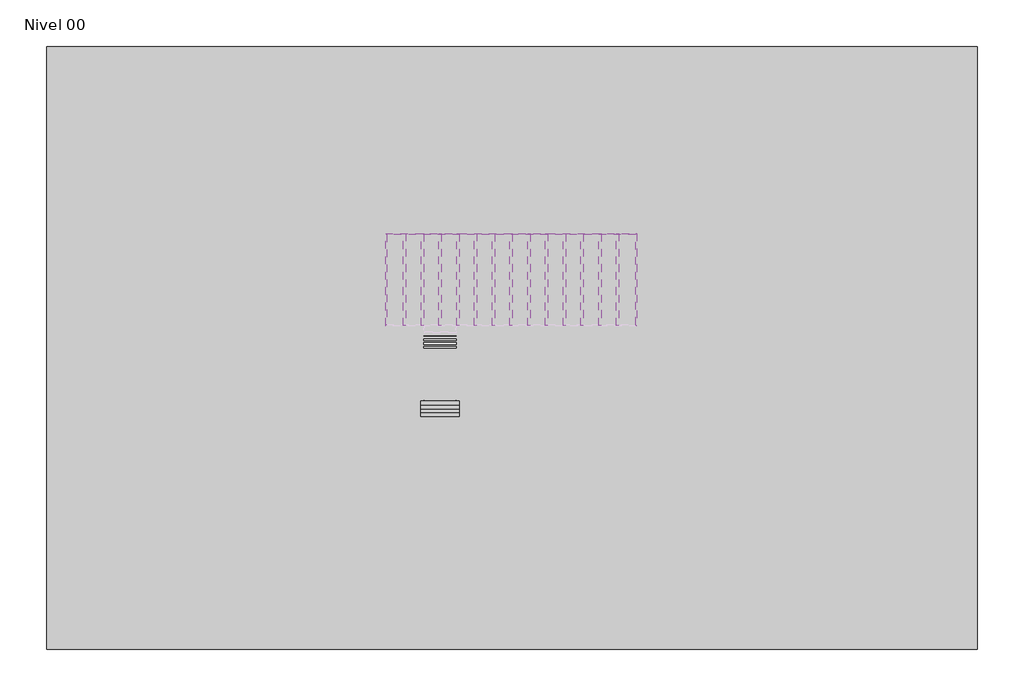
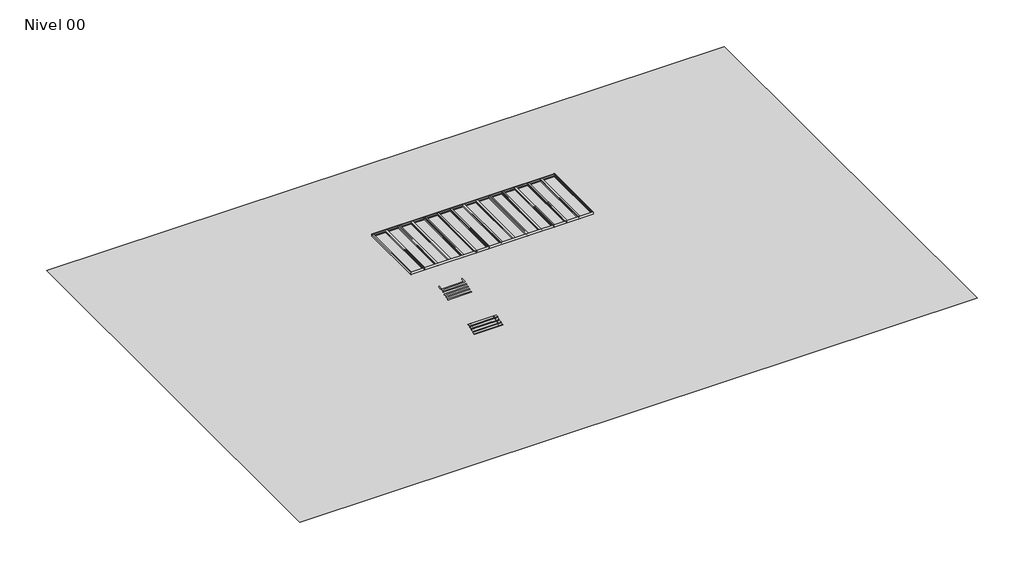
# One storey, part 2 of 2: 16 beams, 2 proxies, 1 stair flight.
"""IFC4 building model written with IfcOpenShell, lengths in millimetres."""

from ifc_helpers import new_model, si_unit, frame, origin, place, context, project, spatial, polyline, ellipse_curve, triangles, transform, mapped, element, save
from ifc_brep_helpers import plane_surface, cylinder_surface, revolved_surface, advanced_brep
from components import viga_heb_he240b_13f2b1aa, viga_heb_he240b_6fe5635d, stair_flight_ad738636

model = new_model("IFC4")

# Units and contexts
model_context = context("Model", 3, world=origin())
ifc_project = project(units=[si_unit("LENGTHUNIT", "METRE", prefix="MILLI")], contexts=[model_context])

# Site, building, storey
site = spatial("IfcSite", under=ifc_project)
building = spatial("IfcBuilding", under=site)
storey = spatial("IfcBuildingStorey", under=building, Name="Nivel 00", Elevation=0.0)

# Beams
placement = place(None, origin())
viga_heb_he240b_shape = viga_heb_he240b_13f2b1aa(model_context)
element("IfcBeam", 1, ObjectType="Viga HEB : HE240B", at=placement, inside=storey, context=model_context, shape_type="MappedRepresentation", body=[
    mapped(viga_heb_he240b_shape, transform((12614.134717, 877.1901934, 4385.0), x_axis=(0.0, -1.0, 0.0), y_axis=(1.0, 0.0, 0.0), z_axis=(0.0, 0.0, 1.0))),
])
element("IfcBeam", 2, ObjectType="Viga HEB : HE240B", at=placement, inside=storey, context=model_context, shape_type="MappedRepresentation", body=[
    mapped(viga_heb_he240b_shape, transform((5903.7525331, 877.1901934, 4385.0), x_axis=(0.0, -1.0, 0.0), y_axis=(1.0, 0.0, 0.0), z_axis=(0.0, 0.0, 1.0))),
])
element("IfcBeam", 3, ObjectType="Viga HEB : HE240B", at=placement, inside=storey, context=model_context, shape_type="MappedRepresentation", body=[
    mapped(viga_heb_he240b_shape, transform((-806.6296508, 877.1901934, 4385.0), x_axis=(0.0, -1.0, 0.0), y_axis=(1.0, 0.0, 0.0), z_axis=(0.0, 0.0, 1.0))),
])
element("IfcBeam", 4, ObjectType="Viga HEB : HE240B", at=placement, inside=storey, context=model_context, shape_type="MappedRepresentation", body=[
    mapped(viga_heb_he240b_shape, transform((-7517.0118347, 877.1901934, 4385.0), x_axis=(0.0, -1.0, 0.0), y_axis=(1.0, 0.0, 0.0), z_axis=(0.0, 0.0, 1.0))),
])
viga_heb_he240b_2_shape = viga_heb_he240b_6fe5635d(model_context)
element("IfcBeam", 5, ObjectType="Viga HEB : HE240B", at=placement, inside=storey, context=model_context, shape_type="MappedRepresentation", body=[
    mapped(viga_heb_he240b_2_shape, transform((10936.539171, 877.1901934, 4385.0), x_axis=(0.0, -1.0, 0.0), y_axis=(1.0, 0.0, 0.0), z_axis=(0.0, 0.0, 1.0))),
])
element("IfcBeam", 6, ObjectType="Viga HEB : HE240B", at=placement, inside=storey, context=model_context, shape_type="MappedRepresentation", body=[
    mapped(viga_heb_he240b_2_shape, transform((9258.943625, 877.1901934, 4385.0), x_axis=(0.0, -1.0, 0.0), y_axis=(1.0, 0.0, 0.0), z_axis=(0.0, 0.0, 1.0))),
])
element("IfcBeam", 7, ObjectType="Viga HEB : HE240B", at=placement, inside=storey, context=model_context, shape_type="MappedRepresentation", body=[
    mapped(viga_heb_he240b_2_shape, transform((7581.3480791, 877.1901934, 4385.0), x_axis=(0.0, -1.0, 0.0), y_axis=(1.0, 0.0, 0.0), z_axis=(0.0, 0.0, 1.0))),
])
element("IfcBeam", 8, ObjectType="Viga HEB : HE240B", at=placement, inside=storey, context=model_context, shape_type="MappedRepresentation", body=[
    mapped(viga_heb_he240b_2_shape, transform((4226.1569871, 877.1901934, 4385.0), x_axis=(0.0, -1.0, 0.0), y_axis=(1.0, 0.0, 0.0), z_axis=(0.0, 0.0, 1.0))),
])
element("IfcBeam", 9, ObjectType="Viga HEB : HE240B", at=placement, inside=storey, context=model_context, shape_type="MappedRepresentation", body=[
    mapped(viga_heb_he240b_2_shape, transform((2548.5614411, 877.1901934, 4385.0), x_axis=(0.0, -1.0, 0.0), y_axis=(1.0, 0.0, 0.0), z_axis=(0.0, 0.0, 1.0))),
])
element("IfcBeam", 10, ObjectType="Viga HEB : HE240B", at=placement, inside=storey, context=model_context, shape_type="MappedRepresentation", body=[
    mapped(viga_heb_he240b_2_shape, transform((870.9658952, 877.1901934, 4385.0), x_axis=(0.0, -1.0, 0.0), y_axis=(1.0, 0.0, 0.0), z_axis=(0.0, 0.0, 1.0))),
])
element("IfcBeam", 11, ObjectType="Viga HEB : HE240B", at=placement, inside=storey, context=model_context, shape_type="MappedRepresentation", body=[
    mapped(viga_heb_he240b_2_shape, transform((-2484.2251968, 877.1901934, 4385.0), x_axis=(0.0, -1.0, 0.0), y_axis=(1.0, 0.0, 0.0), z_axis=(0.0, 0.0, 1.0))),
])
element("IfcBeam", 12, ObjectType="Viga HEB : HE240B", at=placement, inside=storey, context=model_context, shape_type="MappedRepresentation", body=[
    mapped(viga_heb_he240b_2_shape, transform((-4161.8207428, 877.1901934, 4385.0), x_axis=(0.0, -1.0, 0.0), y_axis=(1.0, 0.0, 0.0), z_axis=(0.0, 0.0, 1.0))),
])
element("IfcBeam", 13, ObjectType="Viga HEB : HE240B", at=placement, inside=storey, context=model_context, shape_type="MappedRepresentation", body=[
    mapped(viga_heb_he240b_2_shape, transform((-5839.4162888, 877.1901934, 4385.0), x_axis=(0.0, -1.0, 0.0), y_axis=(1.0, 0.0, 0.0), z_axis=(0.0, 0.0, 1.0))),
])
element("IfcBeam", 14, ObjectType="Viga UPN : UPN 300", at=placement, inside=storey, context=model_context, shape_type="AdvancedBrep", body=[
    advanced_brep(
    [(14412.672648, -3493.1309012, 4250.0), (14412.672648, 5247.4380644, 4250.0), (14412.672648, 5247.4380644, 4550.0), (14412.672648, -3493.1309012, 4550.0), (14312.672648, -3393.1309012, 4250.0), (14312.672648, 5147.4380644, 4250.0), (14312.672648, -3393.1309012, 4254.6144408), (14312.672648, 5147.4380644, 4254.6144408), (14320.0346863, -3400.4929394, 4262.5889631), (14320.0346863, 5154.8001026, 4262.5889631), (14387.9485716, -3468.4068247, 4268.0220739), (14387.9485716, 5222.7139879, 4268.0220739), (14402.672648, -3483.1309012, 4283.9711183), (14402.672648, 5237.4380644, 4283.9711183), (14402.672648, -3483.1309012, 4516.0288817), (14402.672648, 5237.4380644, 4516.0288817), (14387.9485716, -3468.4068247, 4531.9779261), (14387.9485716, 5222.7139879, 4531.9779261), (14320.0346863, -3400.4929394, 4537.4110369), (14320.0346863, 5154.8001026, 4537.4110369), (14312.672648, -3393.1309012, 4545.3855592), (14312.672648, 5147.4380644, 4545.3855592), (14312.672648, -3393.1309012, 4550.0), (14312.672648, 5147.4380644, 4550.0)],
    [
        (0, 1),
        (1, 2),
        (2, 3),
        (3, 0),
        (4, 5),
        (5, 1),
        (0, 4),
        (6, 7),
        (7, 5),
        (4, 6),
        (8, 9),
        (9, 7, ellipse_curve(frame((14320.672648, 5155.4380644, 4254.6144408), z_axis=(0.7071067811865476, -0.7071067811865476, 0.0), x_axis=(0.7071067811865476, 0.7071067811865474, 0.0)), 11.3137085, 8.0)),
        (6, 8, ellipse_curve(frame((14320.672648, -3401.1309012, 4254.6144408), z_axis=(0.7071067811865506, 0.7071067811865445, 0.0), x_axis=(-0.7071067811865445, 0.7071067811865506, 0.0)), 11.3137085, 8.0)),
        (8, 10),
        (10, 11),
        (11, 9),
        (12, 13),
        (13, 11, ellipse_curve(frame((14386.672648, 5221.4380644, 4283.9711183), z_axis=(-0.7071067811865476, 0.7071067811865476, 0.0), x_axis=(0.7071067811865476, 0.7071067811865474, 0.0)), 22.627417, 16.0)),
        (10, 12, ellipse_curve(frame((14386.672648, -3467.1309012, 4283.9711183), z_axis=(-0.7071067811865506, -0.7071067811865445, 0.0), x_axis=(-0.7071067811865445, 0.7071067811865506, 0.0)), 22.627417, 16.0)),
        (14, 15),
        (15, 13),
        (12, 14),
        (16, 17),
        (17, 15, ellipse_curve(frame((14386.672648, 5221.4380644, 4516.0288817), z_axis=(-0.7071067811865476, 0.7071067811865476, 0.0), x_axis=(0.7071067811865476, 0.7071067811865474, 0.0)), 22.627417, 16.0)),
        (14, 16, ellipse_curve(frame((14386.672648, -3467.1309012, 4516.0288817), z_axis=(-0.7071067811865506, -0.7071067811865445, 0.0), x_axis=(-0.7071067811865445, 0.7071067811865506, 0.0)), 22.627417, 16.0)),
        (16, 18),
        (18, 19),
        (19, 17),
        (20, 21),
        (21, 19, ellipse_curve(frame((14320.672648, 5155.4380644, 4545.3855592), z_axis=(0.7071067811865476, -0.7071067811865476, 0.0), x_axis=(0.7071067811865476, 0.7071067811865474, 0.0)), 11.3137085, 8.0)),
        (18, 20, ellipse_curve(frame((14320.672648, -3401.1309012, 4545.3855592), z_axis=(0.7071067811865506, 0.7071067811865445, 0.0), x_axis=(-0.7071067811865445, 0.7071067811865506, 0.0)), 11.3137085, 8.0)),
        (22, 23),
        (23, 21),
        (20, 22),
        (2, 23),
        (22, 3),
    ],
    [
        plane_surface(frame((14412.672648, -3405.5464184, 4400.0), z_axis=(1.0, 0.0, 0.0), x_axis=(0.0, 0.0, -1.0))),
        plane_surface(frame((14362.672648, -3405.5464184, 4250.0), z_axis=(0.0, 0.0, -1.0), x_axis=(-1.0, 0.0, 0.0))),
        plane_surface(frame((14312.672648, -3405.5464184, 4252.3072204), z_axis=(-1.0, 0.0, 0.0), x_axis=(0.0, 0.0, 1.0))),
        cylinder_surface(frame((14320.672648, -3405.5464184, 4254.6144408), z_axis=(0.0, 1.0, 0.0), x_axis=(0.0, 0.0, 1.0)), 8.0),
        plane_surface(frame((14353.9916289, -3405.5464184, 4265.3055185), z_axis=(-0.07974522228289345, 0.0, 0.9968152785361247), x_axis=(0.9968152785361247, 0.0, 0.07974522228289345))),
        revolved_surface(polyline([(14402.621692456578, 5237.438064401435, 4285.247041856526), (14402.621692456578, -3483.130901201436, 4285.247041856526)]), (14386.672648, -3405.5464184, 4283.9711183), (0.0, 1.0, 0.0)),
        plane_surface(frame((14402.672648, -3405.5464184, 4400.0), z_axis=(-1.0, 0.0, 0.0), x_axis=(0.0, 0.0, 1.0))),
        revolved_surface(polyline([(14386.672648, 5237.438064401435, 4532.0288817), (14386.672648, -3483.130901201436, 4532.0288817)]), (14386.672648, -3405.5464184, 4516.0288817), (0.0, 1.0, 0.0)),
        plane_surface(frame((14353.9916289, -3405.5464184, 4534.6944815), z_axis=(-0.07974522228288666, 0.0, -0.9968152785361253), x_axis=(-0.9968152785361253, 0.0, 0.07974522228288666))),
        cylinder_surface(frame((14320.672648, -3405.5464184, 4545.3855592), z_axis=(0.0, 1.0, 0.0), x_axis=(-0.9968152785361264, 0.0, 0.079745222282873)), 8.0),
        plane_surface(frame((14312.672648, -3405.5464184, 4547.6927796), z_axis=(-1.0, 0.0, 0.0), x_axis=(0.0, 0.0, 1.0))),
        plane_surface(frame((14362.672648, -3405.5464184, 4550.0), z_axis=(0.0, 0.0, 1.0), x_axis=(1.0, 0.0, 0.0))),
        plane_surface(frame((14312.672648, 5147.4380644, 4550.0), z_axis=(-0.7071067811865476, 0.7071067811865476, 0.0), x_axis=(0.7071067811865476, 0.7071067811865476, 0.0))),
        plane_surface(frame((14312.672648, -3393.1309012, 4550.0), z_axis=(-0.7071067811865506, -0.7071067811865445, 0.0), x_axis=(0.7071067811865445, -0.7071067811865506, 0.0))),
    ],
    [
        (0, [[1, 2, 3, 4]]),
        (1, [[5, 6, -1, 7]]),
        (2, [[8, 9, -5, 10]]),
        (3, [[11, 12, -8, 13]]),
        (4, [[14, 15, 16, -11]]),
        (5, [[17, 18, -15, 19]]),
        (6, [[20, 21, -17, 22]]),
        (7, [[23, 24, -20, 25]]),
        (8, [[26, 27, 28, -23]]),
        (9, [[29, 30, -27, 31]]),
        (10, [[32, 33, -29, 34]]),
        (11, [[-3, 35, -32, 36]]),
        (12, [[-2, -6, -9, -12, -16, -18, -21, -24, -28, -30, -33, -35]]),
        (13, [[-36, -34, -31, -26, -25, -22, -19, -14, -13, -10, -7, -4]]),
    ],
),
])
element("IfcBeam", 15, ObjectType="Viga UPN : UPN 300", at=placement, inside=storey, context=model_context, shape_type="AdvancedBrep", body=[
    advanced_brep(
    [(14412.672648, 5247.4380644, 4250.0), (-9319.7825244, 5247.4380644, 4250.0), (-9319.7825244, 5247.4380644, 4550.0), (14412.672648, 5247.4380644, 4550.0), (14312.672648, 5147.4380644, 4250.0), (-9219.7825244, 5147.4380644, 4250.0), (14312.672648, 5147.4380644, 4254.6144408), (-9219.7825244, 5147.4380644, 4254.6144408), (14320.0346863, 5154.8001026, 4262.5889631), (-9227.1445626, 5154.8001026, 4262.5889631), (14387.9485716, 5222.7139879, 4268.0220739), (-9295.0584479, 5222.7139879, 4268.0220739), (14402.672648, 5237.4380644, 4283.9711183), (-9309.7825244, 5237.4380644, 4283.9711183), (14402.672648, 5237.4380644, 4516.0288817), (-9309.7825244, 5237.4380644, 4516.0288817), (14387.9485716, 5222.7139879, 4531.9779261), (-9295.0584479, 5222.7139879, 4531.9779261), (14320.0346863, 5154.8001026, 4537.4110369), (-9227.1445626, 5154.8001026, 4537.4110369), (14312.672648, 5147.4380644, 4545.3855592), (-9219.7825244, 5147.4380644, 4545.3855592), (14312.672648, 5147.4380644, 4550.0), (-9219.7825244, 5147.4380644, 4550.0)],
    [
        (0, 1),
        (1, 2),
        (2, 3),
        (3, 0),
        (4, 5),
        (5, 1),
        (0, 4),
        (6, 7),
        (7, 5),
        (4, 6),
        (8, 9),
        (9, 7, ellipse_curve(frame((-9227.7825244, 5155.4380644, 4254.6144408), z_axis=(0.7071067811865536, 0.7071067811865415, 0.0), x_axis=(-0.7071067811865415, 0.7071067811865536, 0.0)), 11.3137085, 8.0)),
        (6, 8, ellipse_curve(frame((14320.672648, 5155.4380644, 4254.6144408), z_axis=(-0.7071067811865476, 0.7071067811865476, 0.0), x_axis=(-0.7071067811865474, -0.7071067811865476, 0.0)), 11.3137085, 8.0)),
        (8, 10),
        (10, 11),
        (11, 9),
        (12, 13),
        (13, 11, ellipse_curve(frame((-9293.7825244, 5221.4380644, 4283.9711183), z_axis=(-0.7071067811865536, -0.7071067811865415, 0.0), x_axis=(-0.7071067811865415, 0.7071067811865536, 0.0)), 22.627417, 16.0)),
        (10, 12, ellipse_curve(frame((14386.672648, 5221.4380644, 4283.9711183), z_axis=(0.7071067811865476, -0.7071067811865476, 0.0), x_axis=(-0.7071067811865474, -0.7071067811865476, 0.0)), 22.627417, 16.0)),
        (14, 15),
        (15, 13),
        (12, 14),
        (16, 17),
        (17, 15, ellipse_curve(frame((-9293.7825244, 5221.4380644, 4516.0288817), z_axis=(-0.7071067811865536, -0.7071067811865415, 0.0), x_axis=(-0.7071067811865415, 0.7071067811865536, 0.0)), 22.627417, 16.0)),
        (14, 16, ellipse_curve(frame((14386.672648, 5221.4380644, 4516.0288817), z_axis=(0.7071067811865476, -0.7071067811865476, 0.0), x_axis=(-0.7071067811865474, -0.7071067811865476, 0.0)), 22.627417, 16.0)),
        (16, 18),
        (18, 19),
        (19, 17),
        (20, 21),
        (21, 19, ellipse_curve(frame((-9227.7825244, 5155.4380644, 4545.3855592), z_axis=(0.7071067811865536, 0.7071067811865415, 0.0), x_axis=(-0.7071067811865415, 0.7071067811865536, 0.0)), 11.3137085, 8.0)),
        (18, 20, ellipse_curve(frame((14320.672648, 5155.4380644, 4545.3855592), z_axis=(-0.7071067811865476, 0.7071067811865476, 0.0), x_axis=(-0.7071067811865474, -0.7071067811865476, 0.0)), 11.3137085, 8.0)),
        (22, 23),
        (23, 21),
        (20, 22),
        (2, 23),
        (22, 3),
    ],
    [
        plane_surface(frame((14325.1450618, 5247.4380644, 4400.0), z_axis=(0.0, 1.0, 0.0), x_axis=(0.0, 0.0, -1.0))),
        plane_surface(frame((14325.1450618, 5197.4380644, 4250.0), z_axis=(0.0, 0.0, -1.0), x_axis=(0.0, -1.0, 0.0))),
        plane_surface(frame((14325.1450618, 5147.4380644, 4252.3072204), z_axis=(0.0, -1.0, 0.0), x_axis=(0.0, 0.0, 1.0))),
        cylinder_surface(frame((14325.1450618, 5155.4380644, 4254.6144408), z_axis=(-1.0, 0.0, 0.0), x_axis=(0.0, 0.0, 1.0)), 8.0),
        plane_surface(frame((14325.1450618, 5188.7570452, 4265.3055185), z_axis=(0.0, -0.07974522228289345, 0.9968152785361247), x_axis=(0.0, 0.9968152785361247, 0.07974522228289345))),
        revolved_surface(polyline([(-9309.782524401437, 5237.387108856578, 4285.247041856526), (14402.672648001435, 5237.387108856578, 4285.247041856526)]), (14325.1450618, 5221.4380644, 4283.9711183), (-1.0, 0.0, 0.0)),
        plane_surface(frame((14325.1450618, 5237.4380644, 4400.0), z_axis=(0.0, -1.0, 0.0), x_axis=(0.0, 0.0, 1.0))),
        revolved_surface(polyline([(-9309.782524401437, 5221.4380644, 4532.0288817), (14402.672648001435, 5221.4380644, 4532.0288817)]), (14325.1450618, 5221.4380644, 4516.0288817), (-1.0, 0.0, 0.0)),
        plane_surface(frame((14325.1450618, 5188.7570452, 4534.6944815), z_axis=(0.0, -0.07974522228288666, -0.9968152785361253), x_axis=(0.0, -0.9968152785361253, 0.07974522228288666))),
        cylinder_surface(frame((14325.1450618, 5155.4380644, 4545.3855592), z_axis=(-1.0, 0.0, 0.0), x_axis=(0.0, -0.9968152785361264, 0.079745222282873)), 8.0),
        plane_surface(frame((14325.1450618, 5147.4380644, 4547.6927796), z_axis=(0.0, -1.0, 0.0), x_axis=(0.0, 0.0, 1.0))),
        plane_surface(frame((14325.1450618, 5197.4380644, 4550.0), z_axis=(0.0, 0.0, 1.0), x_axis=(0.0, 1.0, 0.0))),
        plane_surface(frame((14312.672648, 5147.4380644, 4550.0), z_axis=(0.7071067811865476, -0.7071067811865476, 0.0), x_axis=(0.7071067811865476, 0.7071067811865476, 0.0))),
        plane_surface(frame((-9219.7825244, 5147.4380644, 4550.0), z_axis=(-0.7071067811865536, -0.7071067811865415, 0.0), x_axis=(0.7071067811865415, -0.7071067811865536, 0.0))),
    ],
    [
        (0, [[1, 2, 3, 4]]),
        (1, [[5, 6, -1, 7]]),
        (2, [[8, 9, -5, 10]]),
        (3, [[11, 12, -8, 13]]),
        (4, [[14, 15, 16, -11]]),
        (5, [[17, 18, -15, 19]]),
        (6, [[20, 21, -17, 22]]),
        (7, [[23, 24, -20, 25]]),
        (8, [[26, 27, 28, -23]]),
        (9, [[29, 30, -27, 31]]),
        (10, [[32, 33, -29, 34]]),
        (11, [[-3, 35, -32, 36]]),
        (12, [[-36, -34, -31, -26, -25, -22, -19, -14, -13, -10, -7, -4]]),
        (13, [[-2, -6, -9, -12, -16, -18, -21, -24, -28, -30, -33, -35]]),
    ],
),
])
element("IfcBeam", 16, ObjectType="Viga UPN : UPN 300", at=placement, inside=storey, context=model_context, shape_type="AdvancedBrep", body=[
    advanced_brep(
    [(-9319.7825244, 5247.4380644, 4250.0), (-9319.7825244, -3493.1309012, 4250.0), (-9319.7825244, -3493.1309012, 4550.0), (-9319.7825244, 5247.4380644, 4550.0), (-9219.7825244, 5147.4380644, 4250.0), (-9219.7825244, -3393.1309012, 4250.0), (-9219.7825244, 5147.4380644, 4254.6144408), (-9219.7825244, -3393.1309012, 4254.6144408), (-9227.1445626, 5154.8001026, 4262.5889631), (-9227.1445626, -3400.4929394, 4262.5889631), (-9295.0584479, 5222.7139879, 4268.0220739), (-9295.0584479, -3468.4068247, 4268.0220739), (-9309.7825244, 5237.4380644, 4283.9711183), (-9309.7825244, -3483.1309012, 4283.9711183), (-9309.7825244, 5237.4380644, 4516.0288817), (-9309.7825244, -3483.1309012, 4516.0288817), (-9295.0584479, 5222.7139879, 4531.9779261), (-9295.0584479, -3468.4068247, 4531.9779261), (-9227.1445626, 5154.8001026, 4537.4110369), (-9227.1445626, -3400.4929394, 4537.4110369), (-9219.7825244, 5147.4380644, 4545.3855592), (-9219.7825244, -3393.1309012, 4545.3855592), (-9219.7825244, 5147.4380644, 4550.0), (-9219.7825244, -3393.1309012, 4550.0)],
    [
        (0, 1),
        (1, 2),
        (2, 3),
        (3, 0),
        (4, 5),
        (5, 1),
        (0, 4),
        (6, 7),
        (7, 5),
        (4, 6),
        (8, 9),
        (9, 7, ellipse_curve(frame((-9227.7825244, -3401.1309012, 4254.6144408), z_axis=(-0.7071067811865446, 0.7071067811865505, 0.0), x_axis=(-0.7071067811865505, -0.7071067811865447, 0.0)), 11.3137085, 8.0)),
        (6, 8, ellipse_curve(frame((-9227.7825244, 5155.4380644, 4254.6144408), z_axis=(-0.7071067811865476, -0.7071067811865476, 0.0), x_axis=(0.7071067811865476, -0.7071067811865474, 0.0)), 11.3137085, 8.0)),
        (8, 10),
        (10, 11),
        (11, 9),
        (12, 13),
        (13, 11, ellipse_curve(frame((-9293.7825244, -3467.1309012, 4283.9711183), z_axis=(0.7071067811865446, -0.7071067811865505, 0.0), x_axis=(-0.7071067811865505, -0.7071067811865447, 0.0)), 22.627417, 16.0)),
        (10, 12, ellipse_curve(frame((-9293.7825244, 5221.4380644, 4283.9711183), z_axis=(0.7071067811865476, 0.7071067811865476, 0.0), x_axis=(0.7071067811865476, -0.7071067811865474, 0.0)), 22.627417, 16.0)),
        (14, 15),
        (15, 13),
        (12, 14),
        (16, 17),
        (17, 15, ellipse_curve(frame((-9293.7825244, -3467.1309012, 4516.0288817), z_axis=(0.7071067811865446, -0.7071067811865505, 0.0), x_axis=(-0.7071067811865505, -0.7071067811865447, 0.0)), 22.627417, 16.0)),
        (14, 16, ellipse_curve(frame((-9293.7825244, 5221.4380644, 4516.0288817), z_axis=(0.7071067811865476, 0.7071067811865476, 0.0), x_axis=(0.7071067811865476, -0.7071067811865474, 0.0)), 22.627417, 16.0)),
        (16, 18),
        (18, 19),
        (19, 17),
        (20, 21),
        (21, 19, ellipse_curve(frame((-9227.7825244, -3401.1309012, 4545.3855592), z_axis=(-0.7071067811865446, 0.7071067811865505, 0.0), x_axis=(-0.7071067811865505, -0.7071067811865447, 0.0)), 11.3137085, 8.0)),
        (18, 20, ellipse_curve(frame((-9227.7825244, 5155.4380644, 4545.3855592), z_axis=(-0.7071067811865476, -0.7071067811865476, 0.0), x_axis=(0.7071067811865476, -0.7071067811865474, 0.0)), 11.3137085, 8.0)),
        (22, 23),
        (23, 21),
        (20, 22),
        (2, 23),
        (22, 3),
    ],
    [
        plane_surface(frame((-9319.7825244, 5159.8535816, 4400.0), z_axis=(-1.0, 0.0, 0.0), x_axis=(0.0, 0.0, -1.0))),
        plane_surface(frame((-9269.7825244, 5159.8535816, 4250.0), z_axis=(0.0, 0.0, -1.0), x_axis=(1.0, 0.0, 0.0))),
        plane_surface(frame((-9219.7825244, 5159.8535816, 4252.3072204), z_axis=(1.0, 0.0, 0.0), x_axis=(0.0, 0.0, 1.0))),
        cylinder_surface(frame((-9227.7825244, 5159.8535816, 4254.6144408), z_axis=(0.0, -1.0, 0.0), x_axis=(0.0, 0.0, 1.0)), 8.0),
        plane_surface(frame((-9261.1015053, 5159.8535816, 4265.3055185), z_axis=(0.07974522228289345, 0.0, 0.9968152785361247), x_axis=(-0.9968152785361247, 0.0, 0.07974522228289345))),
        revolved_surface(polyline([(-9309.731568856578, -3483.1309012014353, 4285.247041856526), (-9309.731568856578, 5237.438064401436, 4285.247041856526)]), (-9293.7825244, 5159.8535816, 4283.9711183), (0.0, -1.0, 0.0)),
        plane_surface(frame((-9309.7825244, 5159.8535816, 4400.0), z_axis=(1.0, 0.0, 0.0), x_axis=(0.0, 0.0, 1.0))),
        revolved_surface(polyline([(-9293.7825244, -3483.1309012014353, 4532.0288817), (-9293.7825244, 5237.438064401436, 4532.0288817)]), (-9293.7825244, 5159.8535816, 4516.0288817), (0.0, -1.0, 0.0)),
        plane_surface(frame((-9261.1015053, 5159.8535816, 4534.6944815), z_axis=(0.07974522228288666, 0.0, -0.9968152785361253), x_axis=(0.9968152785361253, 0.0, 0.07974522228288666))),
        cylinder_surface(frame((-9227.7825244, 5159.8535816, 4545.3855592), z_axis=(0.0, -1.0, 0.0), x_axis=(0.9968152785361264, 0.0, 0.079745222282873)), 8.0),
        plane_surface(frame((-9219.7825244, 5159.8535816, 4547.6927796), z_axis=(1.0, 0.0, 0.0), x_axis=(0.0, 0.0, 1.0))),
        plane_surface(frame((-9269.7825244, 5159.8535816, 4550.0), z_axis=(0.0, 0.0, 1.0), x_axis=(-1.0, 0.0, 0.0))),
        plane_surface(frame((-9219.7825244, 5147.4380644, 4550.0), z_axis=(0.7071067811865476, 0.7071067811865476, 0.0), x_axis=(0.7071067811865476, -0.7071067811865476, 0.0))),
        plane_surface(frame((-9219.7825244, -3393.1309012, 4550.0), z_axis=(0.7071067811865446, -0.7071067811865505, 0.0), x_axis=(0.7071067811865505, 0.7071067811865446, 0.0))),
    ],
    [
        (0, [[1, 2, 3, 4]]),
        (1, [[5, 6, -1, 7]]),
        (2, [[8, 9, -5, 10]]),
        (3, [[11, 12, -8, 13]]),
        (4, [[14, 15, 16, -11]]),
        (5, [[17, 18, -15, 19]]),
        (6, [[20, 21, -17, 22]]),
        (7, [[23, 24, -20, 25]]),
        (8, [[26, 27, 28, -23]]),
        (9, [[29, 30, -27, 31]]),
        (10, [[32, 33, -29, 34]]),
        (11, [[-3, 35, -32, 36]]),
        (12, [[-36, -34, -31, -26, -25, -22, -19, -14, -13, -10, -7, -4]]),
        (13, [[-2, -6, -9, -12, -16, -18, -21, -24, -28, -30, -33, -35]]),
    ],
),
])

# Proxies
element("IfcBuildingElementProxy", 17, Name="Building Element Proxy", at=placement, inside=storey, context=model_context, shape_type="Tessellation", body=[
    triangles([(-41366.1355225, 22926.1215454, 0.0), (46633.8651489, 22926.1215454, 0.0), (46633.8651489, -34073.8783081, 0.0), (-41366.1355225, -34073.8783081, 0.0)], [[1, 4, 3], [3, 2, 1]], closed=False),
])
element("IfcBuildingElementProxy", 18, Name="Building Element Proxy", at=placement, inside=storey, context=model_context, shape_type="Tessellation", body=[
    triangles([(-41366.1355225, 22926.1215454, 0.0), (-41366.1355225, -34073.8783081, 0.0), (46633.8651489, -34073.8783081, 0.0), (46633.8651489, 22926.1215454, 0.0), (-13627.0124084, -10099.8381683, 0.0), (-13627.0124084, -11299.8381775, 0.0), (-14827.0112549, -11299.8381775, 0.0), (-14827.0112549, -10099.8381683, 0.0), (-6917.0120956, -10099.8381683, 0.0), (-6917.0120956, -11299.8381775, 0.0), (-8117.0121048, -11299.8381775, 0.0), (-8117.0121048, -10099.8381683, 0.0), (-209.4601072, -10099.8381683, 0.0), (-209.4601072, -11299.8381775, 0.0), (-1409.4600437, -11299.8381775, 0.0), (-1409.4600437, -10099.8381683, 0.0), (-13627.0124084, -2993.1309654, 0.0), (-13627.0124084, -4193.1309746, 0.0), (-14827.0112549, -4193.1309746, 0.0), (-14827.0112549, -2993.1309654, 0.0), (-6917.0120956, -2993.1309654, 0.0), (-6917.0120956, -4193.1309746, 0.0), (-8117.0121048, -4193.1309746, 0.0), (-8117.0121048, -2993.1309654, 0.0), (-209.4601072, -2993.1309654, 0.0), (-209.4601072, -3732.1791687, 0.0), (-209.4601072, -4193.1309746, 0.0), (-1409.4600437, -4193.1309746, 0.0), (-1409.4600437, -2993.1309654, 0.0), (-1350.4469307, -2993.1309654, 0.0), (6502.3414764, -2993.1309654, 0.0), (6502.3414764, -4193.1309746, 0.0), (5302.3414673, -4193.1309746, 0.0), (5302.3414673, -2993.1309654, 0.0), (13214.1352844, -2993.1309654, 0.0), (13214.1352844, -4193.1309746, 0.0), (12014.1352753, -4193.1309746, 0.0), (12014.1352753, -2993.1309654, 0.0), (-6917.0120956, 5947.4381378, 0.0), (-6917.0120956, 4747.4381287, 0.0), (-8117.0121048, 4747.4381287, 0.0), (-8117.0121048, 5947.4381378, 0.0), (-209.4601072, 5947.4381378, 0.0), (-209.4601072, 4747.4381287, 0.0), (-1409.4600437, 4747.4381287, 0.0), (-1409.4600437, 5947.4381378, 0.0), (6502.3414764, 5947.4381378, 0.0), (6502.3414764, 4747.4381287, 0.0), (5302.3414673, 4747.4381287, 0.0), (5302.3414673, 5947.4381378, 0.0), (13214.1352844, 5947.4381378, 0.0), (13214.1352844, 4747.4381287, 0.0), (12014.1352753, 4747.4381287, 0.0), (12014.1352753, 5947.4381378, 0.0)], [[2, 6, 7], [6, 2, 11], [2, 7, 8], [5, 6, 11], [5, 11, 12], [19, 8, 5], [2, 10, 11], [2, 8, 19], [15, 10, 2], [9, 10, 15], [23, 9, 22], [9, 23, 12], [29, 22, 28], [16, 22, 9], [9, 15, 16], [5, 12, 18], [2, 14, 15], [23, 18, 12], [18, 19, 5], [41, 17, 24], [1, 20, 42], [20, 1, 19], [41, 42, 20], [20, 17, 41], [1, 42, 39], [17, 18, 24], [19, 1, 2], [23, 24, 18], [21, 29, 45], [24, 21, 40], [39, 40, 46], [45, 46, 40], [40, 21, 45], [39, 46, 1], [45, 29, 30], [40, 41, 24], [22, 29, 21], [1, 46, 43], [22, 16, 28], [16, 13, 28], [13, 14, 32], [27, 13, 33], [28, 13, 27], [25, 26, 34], [27, 33, 26], [13, 32, 33], [3, 36, 14], [14, 37, 32], [25, 34, 49], [31, 37, 38], [37, 14, 36], [32, 37, 31], [3, 4, 36], [33, 34, 26], [14, 2, 3], [49, 34, 31], [25, 44, 30], [49, 31, 48], [44, 49, 50], [1, 50, 4], [43, 44, 50], [47, 48, 53], [4, 50, 47], [25, 49, 44], [44, 45, 30], [38, 35, 53], [53, 35, 52], [53, 54, 47], [51, 4, 54], [4, 51, 52], [52, 35, 4], [54, 4, 47], [35, 36, 4], [53, 48, 38], [38, 48, 31], [50, 1, 43]], closed=False),
])

# Stair flight
stair_flight_shape = stair_flight_ad738636(model_context)
element("IfcStairFlight", 19, ObjectType="Huellas: 50 mm Contrahuellas: 10 mm", at=placement, inside=storey, context=model_context, shape_type="MappedRepresentation", body=[
    mapped(stair_flight_shape, transform((0.0, 0.0, 0.0), x_axis=(1.0, 0.0, 0.0), y_axis=(0.0, 1.0, 0.0), z_axis=(0.0, 0.0, 1.0))),
])

save(model, "model.ifc")
